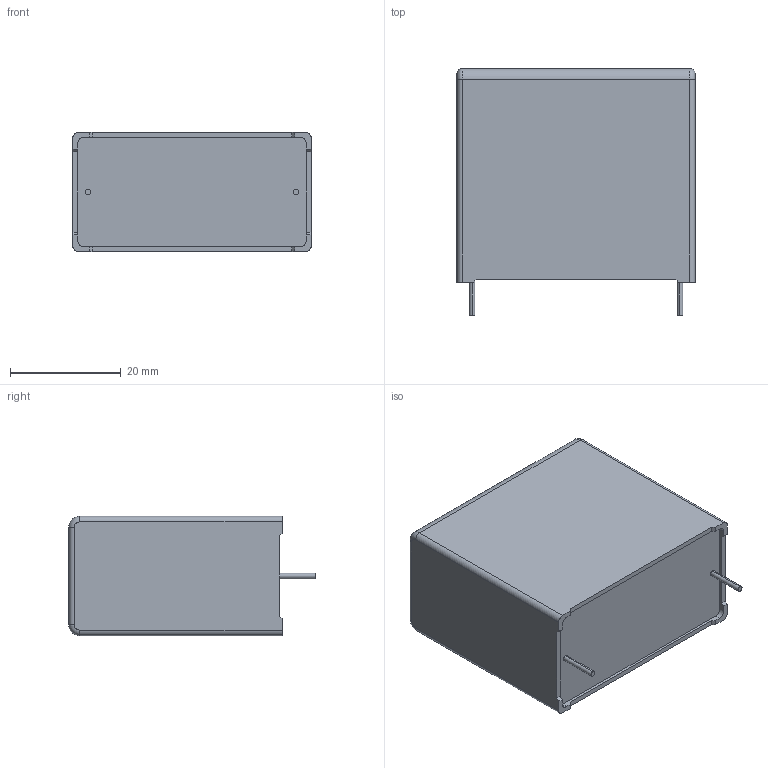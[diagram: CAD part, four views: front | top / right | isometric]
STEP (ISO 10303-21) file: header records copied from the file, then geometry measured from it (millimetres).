
FILE_DESCRIPTION (( 'STEP AP203' ), '1' );
FILE_NAME ('DC_Link_21.5x38.5x43_2pins.step', '2017-04-03T15:59:49', ( 'work' ), ( 'Hewlett-Packard Company' ), 'SwSTEP 2.0', 'SolidWorks 2017', '' );
FILE_SCHEMA (( 'CONFIG_CONTROL_DESIGN' ));
Length unit declared in the file: millimetre
Products named in the file (1): DC_Link_21.5x38.5x43_2pins
Bounding box: 43 x 44.5 x 21.5 mm (x, y, z)
Volume: 34632.2 mm3; surface area: 6716.4 mm2
Topology: 1 solids, 1 shells, 116 faces, 307 edges, 202 vertices
Faces by surface type: plane 80, cylinder 16, bspline 16, torus 4
Entity records: 4332 total; most frequent: CARTESIAN_POINT 1450, ORIENTED_EDGE 614, DIRECTION 513, EDGE_CURVE 307, LINE 239, VECTOR 239, VERTEX_POINT 202, AXIS2_PLACEMENT_3D 137
